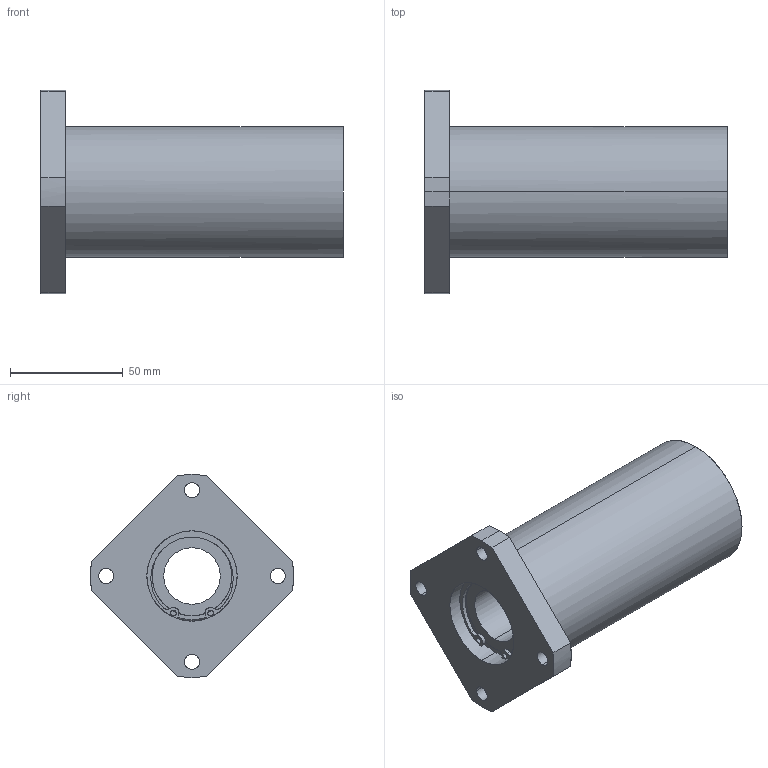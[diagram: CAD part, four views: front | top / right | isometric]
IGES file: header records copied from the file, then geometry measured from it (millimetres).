
Global section: file name: No Iges File Name specified; native system: AutoDesk Inventor R10; preprocessor: AutoDesk Inventor Iges Exporter R10; author: No Author specified; organization: No Organization specified; date: 20101214.135827; units: millimetre
Bounding box: 134 x 89.99 x 90 mm (x, y, z)
Surface area: 51870.5 mm2 (no closed solid volume)
Topology: 0 solids, 0 shells, 119 faces, 884 edges, 884 vertices
Faces by surface type: bspline 119
